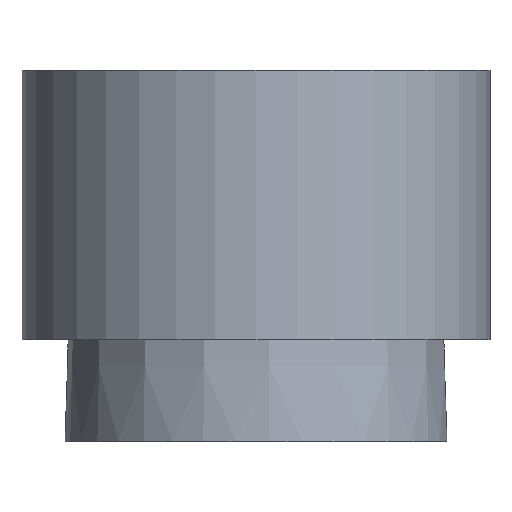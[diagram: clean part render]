
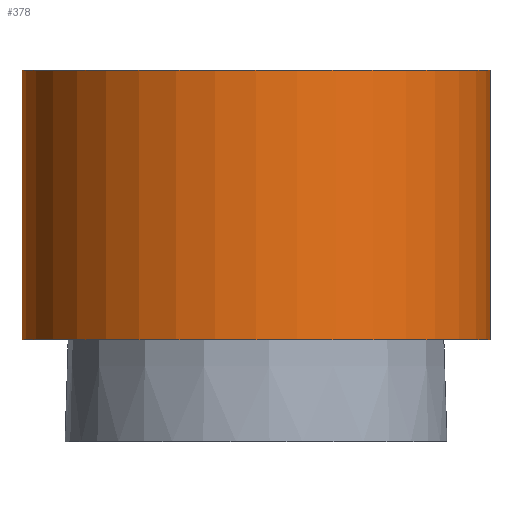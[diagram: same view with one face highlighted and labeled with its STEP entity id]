
A CAD part, front view. The second image highlights one B-rep face of the part: STEP entity #378.
In plain terms, the highlighted cylindrical face has radius 41.25 mm (diameter 82.5 mm), a full revolution.
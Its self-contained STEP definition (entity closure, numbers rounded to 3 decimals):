
#31=CYLINDRICAL_SURFACE($,#439,41.25);
#51=FACE_OUTER_BOUND($,#148,.T.);
#92=FACE_BOUND($,#149,.T.);
#148=EDGE_LOOP($,(#298));
#149=EDGE_LOOP($,(#299));
#181=CIRCLE($,#430,41.25);
#183=CIRCLE($,#434,41.25);
#211=VERTEX_POINT($,#646);
#213=VERTEX_POINT($,#652);
#241=EDGE_CURVE($,#211,#211,#181,.T.);
#243=EDGE_CURVE($,#213,#213,#183,.T.);
#298=ORIENTED_EDGE($,*,*,#241,.T.);
#299=ORIENTED_EDGE($,*,*,#243,.T.);
#378=ADVANCED_FACE($,(#51,#92),#31,.T.);
#430=AXIS2_PLACEMENT_3D($,#647,#537,#538);
#434=AXIS2_PLACEMENT_3D($,#653,#545,#546);
#439=AXIS2_PLACEMENT_3D($,#660,#555,#556);
#537=DIRECTION('center_axis',(0.,0.,1.));
#538=DIRECTION('ref_axis',(-1.,0.,0.));
#545=DIRECTION('center_axis',(0.,0.,-1.));
#546=DIRECTION('ref_axis',(-1.,0.,0.));
#555=DIRECTION('center_axis',(0.,0.,1.));
#556=DIRECTION('ref_axis',(-1.,0.,0.));
#646=CARTESIAN_POINT('',(41.25,0.,-23.75));
#647=CARTESIAN_POINT('Origin',(0.,0.,-23.75));
#652=CARTESIAN_POINT('',(41.25,0.,23.75));
#653=CARTESIAN_POINT('Origin',(0.,0.,23.75));
#660=CARTESIAN_POINT('Origin',(0.,0.,0.));
